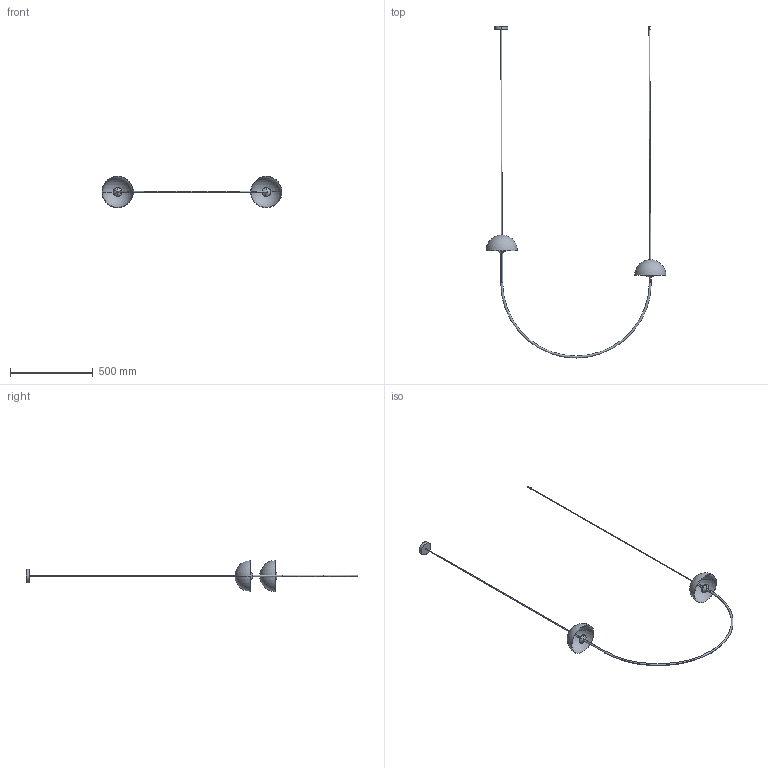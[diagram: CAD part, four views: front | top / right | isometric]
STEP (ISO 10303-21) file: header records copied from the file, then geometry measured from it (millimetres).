
FILE_DESCRIPTION (( 'STEP AP203' ), '1' );
FILE_NAME ('Champignon_pendant.STEP', '2020-06-02T12:46:36', ( '' ), ( '' ), 'SwSTEP 2.0', 'SolidWorks 2018', '' );
FILE_SCHEMA (( 'CONFIG_CONTROL_DESIGN' ));
Length unit declared in the file: millimetre
Products named in the file (8): Champignon_pendant; Barra Dist1; Arco; Chapita; Cono; Sup^Champi_Fira; Cupula; Cable
Assembly tree (10 placements, depth 2):
  Champignon_pendant
    Cupula  x2
    Cono  x2
    Chapita
    Barra Dist1  x2
    Arco
    Cable
    Sup^Champi_Fira
Bounding box: 1090 x 2010.95 x 190 mm (x, y, z)
Volume: 489737.3 mm3; surface area: 374107.4 mm2
Topology: 14 solids, 14 shells, 102 faces, 224 edges, 144 vertices
Faces by surface type: cylinder 48, plane 32, sphere 8, cone 8, bspline 4, torus 2
Entity records: 2978 total; most frequent: CARTESIAN_POINT 570, DIRECTION 364, ORIENTED_EDGE 268, AXIS2_PLACEMENT_3D 162, EDGE_CURVE 134, VERTEX_POINT 88, CIRCLE 86, EDGE_LOOP 78
